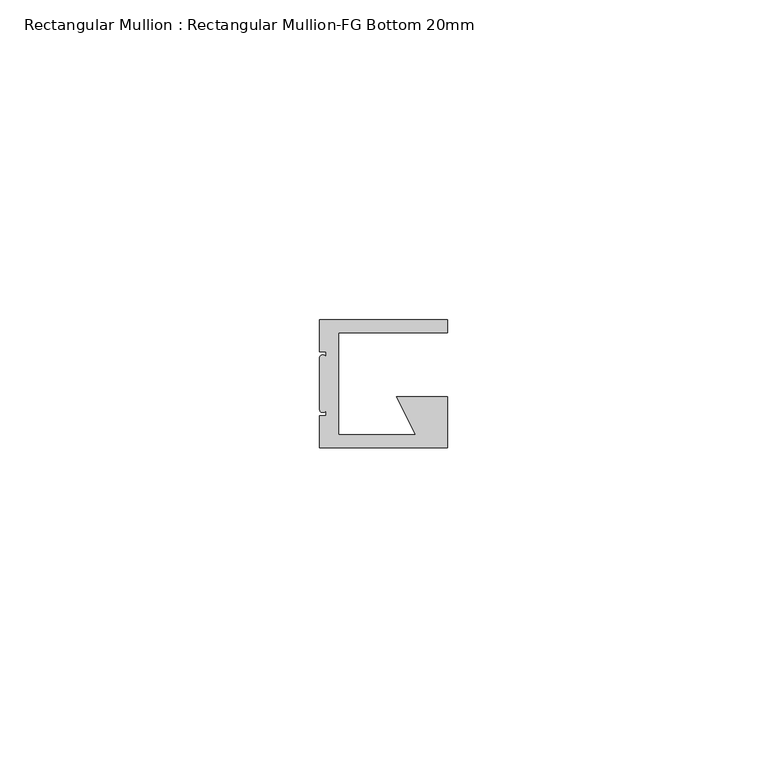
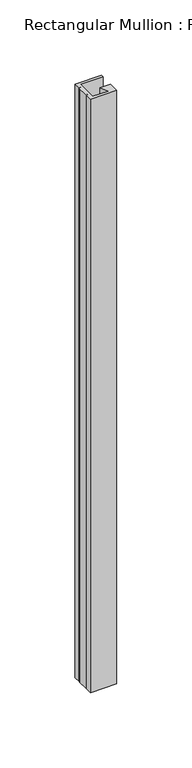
"""IFC4 building model written with IfcOpenShell, lengths in millimetres: member geometry, Rectangular Mullion : Rectangular Mullion-FG Bottom 20mm."""

from ifc_helpers import new_model, si_unit, frame, origin, place, context, project, spatial, circle_curve, source, transform, mapped, element, save
from ifc_brep_helpers import plane_surface, cylinder_surface, advanced_brep


def rectangular_mullion_rectangular_mullion_fg_bottom_20mm_9df6eb3f(model_context):
    return source(origin(), model_context, "Body", "AdvancedBrep", [
        advanced_brep(
        [(-20.0, -5.0, 0.0), (-19.0, -5.0, 0.0), (-19.0, -6.0, 0.0), (-20.0, -6.0, 0.0), (-20.0, -14.0, 0.0), (-19.0, -14.0, 0.0), (-19.0, -15.0, 0.0), (-20.0, -15.0, 0.0), (-20.0, -20.0, 0.0), (0.0, -20.0, 0.0), (0.0, -18.0, 0.0), (0.0, -12.0, 0.0), (-8.0, -12.0, 0.0), (-5.0, -18.0, 0.0), (-17.0, -18.0, 0.0), (-17.0, -2.0, 0.0), (0.0, -2.0, 0.0), (0.0, 0.0, 0.0), (-20.0, 0.0, 0.0), (-20.0, -5.0, -480.0), (-20.0, 0.0, -480.0), (0.0, 0.0, -480.0), (0.0, -2.0, -480.0), (-17.0, -2.0, -480.0), (-17.0, -18.0, -480.0), (-5.0, -18.0, -480.0), (-8.0, -12.0, -480.0), (0.0, -12.0, -480.0), (0.0, -18.0, -480.0), (0.0, -20.0, -480.0), (-20.0, -20.0, -480.0), (-20.0, -15.0, -480.0), (-19.0, -15.0, -480.0), (-19.0, -14.0, -480.0), (-20.0, -14.0, -480.0), (-20.0, -6.0, -480.0), (-19.0, -6.0, -480.0), (-19.0, -5.0, -480.0)],
        [
            (0, 1),
            (1, 2),
            (2, 3, circle_curve(frame((-19.5, -6.0, 0.0), z_axis=(0.0, 0.0, 1.0), x_axis=(-1.0, 0.0, 0.0)), 0.5)),
            (3, 4),
            (4, 5, circle_curve(frame((-19.5, -14.0, 0.0), z_axis=(0.0, 0.0, 1.0), x_axis=(-1.0, 0.0, 0.0)), 0.5)),
            (5, 6),
            (6, 7),
            (7, 8),
            (8, 9),
            (9, 10),
            (10, 11),
            (11, 12),
            (12, 13),
            (13, 14),
            (14, 15),
            (15, 16),
            (16, 17),
            (17, 18),
            (18, 0),
            (19, 20),
            (20, 21),
            (21, 22),
            (22, 23),
            (23, 24),
            (24, 25),
            (25, 26),
            (26, 27),
            (27, 28),
            (28, 29),
            (29, 30),
            (30, 31),
            (31, 32),
            (32, 33),
            (33, 34, circle_curve(frame((-19.5, -14.0, -480.0), z_axis=(0.0, 0.0, -1.0), x_axis=(-1.0, 0.0, 0.0)), 0.5)),
            (34, 35),
            (35, 36, circle_curve(frame((-19.5, -6.0, -480.0), z_axis=(0.0, 0.0, -1.0), x_axis=(-1.0, 0.0, 0.0)), 0.5)),
            (36, 37),
            (37, 19),
            (0, 19),
            (37, 1),
            (36, 2),
            (35, 3),
            (34, 4),
            (33, 5),
            (32, 6),
            (31, 7),
            (30, 8),
            (29, 9),
            (28, 10),
            (27, 11),
            (26, 12),
            (25, 13),
            (24, 14),
            (23, 15),
            (22, 16),
            (21, 17),
            (20, 18),
        ],
        [
            plane_surface(frame((0.0, -28.2842712, 0.0), z_axis=(0.0, 0.0, 1.0), x_axis=(-1.0, 0.0, 0.0))),
            plane_surface(frame((0.0, -28.2842712, -480.0), z_axis=(0.0, 0.0, -1.0), x_axis=(-1.0, 0.0, 0.0))),
            plane_surface(frame((-20.0, -5.0, 0.0), z_axis=(0.0, -1.0, 0.0), x_axis=(0.0, 0.0, -1.0))),
            plane_surface(frame((-19.0, -5.0, 0.0), z_axis=(-1.0, 0.0, 0.0), x_axis=(0.0, 0.0, -1.0))),
            cylinder_surface(frame((-19.5, -6.0, 0.0), z_axis=(0.0, 0.0, 1.0), x_axis=(-1.0, 0.0, 0.0)), 0.5),
            plane_surface(frame((-20.0, -6.0, 0.0), z_axis=(-1.0, 0.0, 0.0), x_axis=(0.0, 0.0, -1.0))),
            cylinder_surface(frame((-19.5, -14.0, 0.0), z_axis=(0.0, 0.0, 1.0), x_axis=(-1.0, 0.0, 0.0)), 0.5),
            plane_surface(frame((-19.0, -14.0, 0.0), z_axis=(-1.0, 0.0, 0.0), x_axis=(0.0, 0.0, -1.0))),
            plane_surface(frame((-19.0, -15.0, 0.0), z_axis=(0.0, 1.0, 0.0), x_axis=(0.0, 0.0, -1.0))),
            plane_surface(frame((-20.0, -15.0, 0.0), z_axis=(-1.0, 0.0, 0.0), x_axis=(0.0, 0.0, -1.0))),
            plane_surface(frame((-20.0, -20.0, 0.0), z_axis=(0.0, -1.0, 0.0), x_axis=(0.0, 0.0, -1.0))),
            plane_surface(frame((0.0, -20.0, 0.0), z_axis=(1.0, 0.0, 0.0), x_axis=(0.0, 0.0, -1.0))),
            plane_surface(frame((0.0, -18.0, 0.0), z_axis=(1.0, 0.0, 0.0), x_axis=(0.0, 0.0, -1.0))),
            plane_surface(frame((0.0, -12.0, 0.0), z_axis=(0.0, 1.0, 0.0), x_axis=(0.0, 0.0, -1.0))),
            plane_surface(frame((-8.0, -12.0, 0.0), z_axis=(-0.8944271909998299, -0.4472135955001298, 0.0), x_axis=(0.0, 0.0, -1.0))),
            plane_surface(frame((-5.0, -18.0, 0.0), z_axis=(0.0, 1.0, 0.0), x_axis=(0.0, 0.0, -1.0))),
            plane_surface(frame((-17.0, -18.0, 0.0), z_axis=(1.0, 0.0, 0.0), x_axis=(0.0, 0.0, -1.0))),
            plane_surface(frame((-17.0, -2.0, 0.0), z_axis=(0.0, -1.0, 0.0), x_axis=(0.0, 0.0, -1.0))),
            plane_surface(frame((0.0, -2.0, 0.0), z_axis=(1.0, 0.0, 0.0), x_axis=(0.0, 0.0, -1.0))),
            plane_surface(frame((0.0, 0.0, 0.0), z_axis=(0.0, 1.0, 0.0), x_axis=(0.0, 0.0, -1.0))),
            plane_surface(frame((-20.0, 0.0, 0.0), z_axis=(-1.0, 0.0, 0.0), x_axis=(0.0, 0.0, -1.0))),
        ],
        [
            (0, [[1, 2, 3, 4, 5, 6, 7, 8, 9, 10, 11, 12, 13, 14, 15, 16, 17, 18, 19]]),
            (1, [[20, 21, 22, 23, 24, 25, 26, 27, 28, 29, 30, 31, 32, 33, 34, 35, 36, 37, 38]]),
            (2, [[-1, 39, -38, 40]]),
            (3, [[-2, -40, -37, 41]]),
            (4, [[-3, -41, -36, 42]]),
            (5, [[-4, -42, -35, 43]]),
            (6, [[-5, -43, -34, 44]]),
            (7, [[-6, -44, -33, 45]]),
            (8, [[-7, -45, -32, 46]]),
            (9, [[-8, -46, -31, 47]]),
            (10, [[-9, -47, -30, 48]]),
            (11, [[-10, -48, -29, 49]]),
            (12, [[-11, -49, -28, 50]]),
            (13, [[-12, -50, -27, 51]]),
            (14, [[-13, -51, -26, 52]]),
            (15, [[-14, -52, -25, 53]]),
            (16, [[-15, -53, -24, 54]]),
            (17, [[-16, -54, -23, 55]]),
            (18, [[-17, -55, -22, 56]]),
            (19, [[-18, -56, -21, 57]]),
            (20, [[-19, -57, -20, -39]]),
        ],
    ),
    ])


if __name__ == "__main__":
    model = new_model("IFC4")
    model_context = context("Model", 3, world=origin())
    ifc_project = project(units=[si_unit("LENGTHUNIT", "METRE", prefix="MILLI")], contexts=[model_context])
    site = spatial("IfcSite", under=ifc_project)
    building = spatial("IfcBuilding", under=site)
    placement = place(None, origin())
    rectangular_mullion_rectangular_mullion_fg_bottom_20mm_shape = rectangular_mullion_rectangular_mullion_fg_bottom_20mm_9df6eb3f(model_context)
    element("IfcMember", 1, ObjectType="Rectangular Mullion : Rectangular Mullion-FG Bottom 20mm", at=placement, inside=building, context=model_context, shape_type="MappedRepresentation", body=[
        mapped(rectangular_mullion_rectangular_mullion_fg_bottom_20mm_shape, transform((0.0, 0.0, 0.0), x_axis=(1.0, 0.0, 0.0), y_axis=(0.0, 1.0, 0.0), z_axis=(0.0, 0.0, 1.0))),
    ])
    save(model, "model.ifc")
